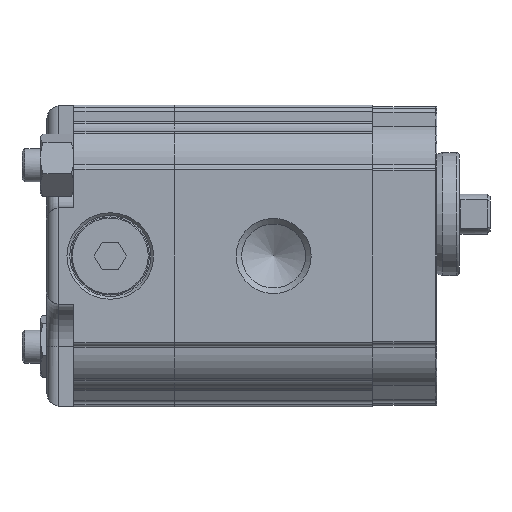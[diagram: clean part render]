
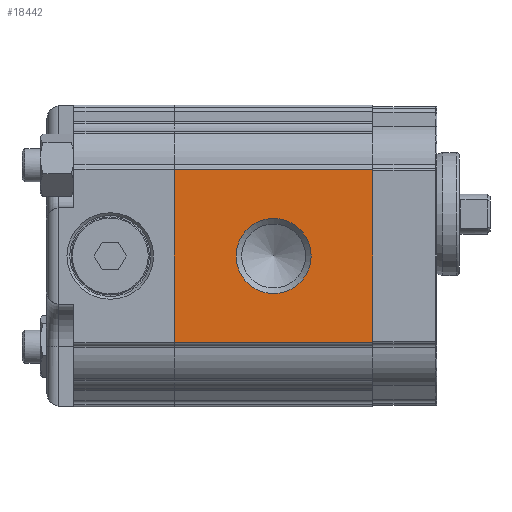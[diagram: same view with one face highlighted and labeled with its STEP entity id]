
A CAD part, left-side view. The second image highlights one B-rep face of the part: STEP entity #18442.
In plain terms, the highlighted planar face has unit normal (-1, 0, 0).
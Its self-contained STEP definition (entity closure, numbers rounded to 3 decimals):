
#1188=LINE('',#27062,#2179);
#1189=LINE('',#27066,#2180);
#1190=LINE('',#27068,#2181);
#1191=LINE('',#27070,#2182);
#2179=VECTOR('',#22477,1000.);
#2180=VECTOR('',#22482,1000.);
#2181=VECTOR('',#22483,1000.);
#2182=VECTOR('',#22484,1000.);
#4624=ORIENTED_EDGE('',*,*,#7423,.T.);
#4625=ORIENTED_EDGE('',*,*,#7424,.F.);
#4626=ORIENTED_EDGE('',*,*,#7422,.F.);
#4627=ORIENTED_EDGE('',*,*,#7425,.T.);
#4628=ORIENTED_EDGE('',*,*,#7426,.T.);
#7422=EDGE_CURVE('',#8967,#8966,#1188,.T.);
#7423=EDGE_CURVE('',#8968,#8968,#9956,.F.);
#7424=EDGE_CURVE('',#8966,#8969,#1189,.T.);
#7425=EDGE_CURVE('',#8967,#8970,#1190,.T.);
#7426=EDGE_CURVE('',#8970,#8969,#1191,.T.);
#8966=VERTEX_POINT('',#27059);
#8967=VERTEX_POINT('',#27061);
#8968=VERTEX_POINT('',#27065);
#8969=VERTEX_POINT('',#27067);
#8970=VERTEX_POINT('',#27069);
#9956=CIRCLE('',#19649,6.723);
#10778=EDGE_LOOP('',(#4624));
#10779=EDGE_LOOP('',(#4625,#4626,#4627,#4628));
#11764=FACE_BOUND('',#10778,.T.);
#11765=FACE_BOUND('',#10779,.T.);
#12430=PLANE('',#19648);
#18442=ADVANCED_FACE('',(#11764,#11765),#12430,.T.);
#19648=AXIS2_PLACEMENT_3D('',#27063,#22478,#22479);
#19649=AXIS2_PLACEMENT_3D('',#27064,#22480,#22481);
#22477=DIRECTION('',(0.,-1.,0.));
#22478=DIRECTION('',(-1.,0.,0.));
#22479=DIRECTION('',(0.,0.,1.));
#22480=DIRECTION('',(-1.,0.,0.));
#22481=DIRECTION('',(0.,0.,1.));
#22482=DIRECTION('',(0.,0.,-1.));
#22483=DIRECTION('',(0.,0.,-1.));
#22484=DIRECTION('',(0.,-1.,0.));
#27059=CARTESIAN_POINT('',(-25.,0.,15.418));
#27061=CARTESIAN_POINT('',(-25.,35.5,15.418));
#27062=CARTESIAN_POINT('',(-25.,35.5,15.418));
#27063=CARTESIAN_POINT('',(-25.,35.5,15.418));
#27064=CARTESIAN_POINT('',(-25.,17.75,0.));
#27065=CARTESIAN_POINT('',(-25.,17.75,6.723));
#27066=CARTESIAN_POINT('',(-25.,0.,15.418));
#27067=CARTESIAN_POINT('',(-25.,0.,-15.418));
#27068=CARTESIAN_POINT('',(-25.,35.5,15.418));
#27069=CARTESIAN_POINT('',(-25.,35.5,-15.418));
#27070=CARTESIAN_POINT('',(-25.,35.5,-15.418));
